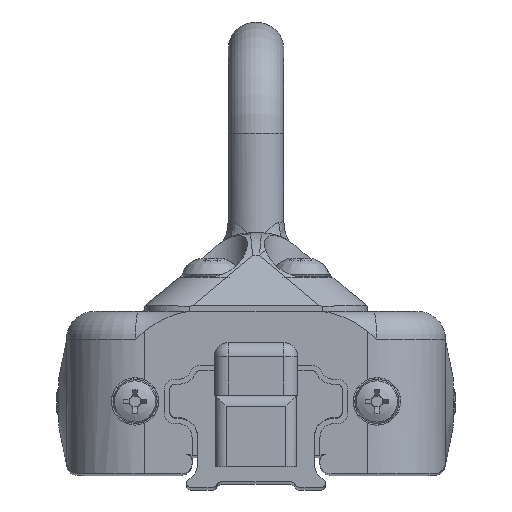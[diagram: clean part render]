
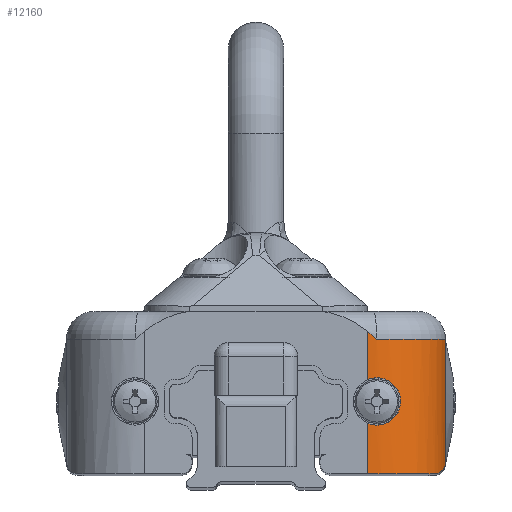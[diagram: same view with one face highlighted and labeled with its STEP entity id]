
A CAD part, top view. The second image highlights one B-rep face of the part: STEP entity #12160.
In plain terms, the highlighted cylindrical face has radius 14 mm (diameter 28 mm), a partial arc.
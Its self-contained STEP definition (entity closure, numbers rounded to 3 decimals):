
#443=CYLINDRICAL_SURFACE('',#13414,14.);
#1486=LINE('',#23136,#2293);
#1487=LINE('',#23146,#2294);
#1488=LINE('',#23147,#2295);
#2293=VECTOR('',#16511,10.);
#2294=VECTOR('',#16514,10.);
#2295=VECTOR('',#16515,10.);
#3056=FACE_OUTER_BOUND('',#3751,.T.);
#3751=EDGE_LOOP('',(#10771,#10772,#10773,#10774,#10775,#10776,#10777,#10778));
#4058=B_SPLINE_CURVE_WITH_KNOTS('',3,(#22677,#22678,#22679,#22680,#22681,
#22682,#22683,#22684,#22685,#22686,#22687,#22688,#22689,#22690,#22691,#22692,
#22693,#22694,#22695,#22696,#22697,#22698,#22699,#22700,#22701,#22702),
 .UNSPECIFIED.,.F.,.F.,(4,2,2,2,2,2,2,2,2,2,2,2,4),(0.479,0.482,
0.642,0.807,0.972,1.133,1.295,
1.456,1.618,1.783,1.948,2.108,
2.111),.UNSPECIFIED.);
#4071=B_SPLINE_CURVE_WITH_KNOTS('',3,(#23129,#23130,#23131,#23132,#23133,
#23134),.UNSPECIFIED.,.F.,.F.,(4,2,4),(1.57,1.946,
2.323),.UNSPECIFIED.);
#4072=B_SPLINE_CURVE_WITH_KNOTS('',3,(#23140,#23141,#23142,#23143,#23144,
#23145),.UNSPECIFIED.,.F.,.F.,(4,2,4),(3.472,3.678,
3.68),.UNSPECIFIED.);
#4657=CIRCLE('',#13415,14.);
#4658=CIRCLE('',#13416,14.);
#5717=VERTEX_POINT('',#22675);
#5718=VERTEX_POINT('',#22676);
#5798=VERTEX_POINT('',#23125);
#5799=VERTEX_POINT('',#23126);
#5800=VERTEX_POINT('',#23128);
#5801=VERTEX_POINT('',#23135);
#5802=VERTEX_POINT('',#23137);
#5803=VERTEX_POINT('',#23139);
#7405=EDGE_CURVE('',#5717,#5718,#4058,.T.);
#7530=EDGE_CURVE('',#5798,#5799,#4657,.T.);
#7531=EDGE_CURVE('',#5799,#5800,#4071,.T.);
#7532=EDGE_CURVE('',#5800,#5801,#1486,.T.);
#7533=EDGE_CURVE('',#5802,#5801,#4658,.T.);
#7534=EDGE_CURVE('',#5803,#5802,#4072,.T.);
#7535=EDGE_CURVE('',#5803,#5717,#1487,.T.);
#7536=EDGE_CURVE('',#5718,#5798,#1488,.T.);
#10771=ORIENTED_EDGE('',*,*,#7530,.T.);
#10772=ORIENTED_EDGE('',*,*,#7531,.T.);
#10773=ORIENTED_EDGE('',*,*,#7532,.T.);
#10774=ORIENTED_EDGE('',*,*,#7533,.F.);
#10775=ORIENTED_EDGE('',*,*,#7534,.F.);
#10776=ORIENTED_EDGE('',*,*,#7535,.T.);
#10777=ORIENTED_EDGE('',*,*,#7405,.T.);
#10778=ORIENTED_EDGE('',*,*,#7536,.T.);
#12160=ADVANCED_FACE('',(#3056),#443,.T.);
#13414=AXIS2_PLACEMENT_3D('',#23124,#16507,#16508);
#13415=AXIS2_PLACEMENT_3D('',#23127,#16509,#16510);
#13416=AXIS2_PLACEMENT_3D('',#23138,#16512,#16513);
#16507=DIRECTION('center_axis',(0.,-1.,0.));
#16508=DIRECTION('ref_axis',(0.707,0.,0.707));
#16509=DIRECTION('center_axis',(0.,1.,0.));
#16510=DIRECTION('ref_axis',(0.707,0.,0.707));
#16511=DIRECTION('',(0.,1.,0.));
#16512=DIRECTION('center_axis',(0.,1.,0.));
#16513=DIRECTION('ref_axis',(0.707,0.,0.707));
#16514=DIRECTION('',(0.,-1.,0.));
#16515=DIRECTION('',(0.,-1.,0.));
#22675=CARTESIAN_POINT('',(20.1,19.417,95.));
#22676=CARTESIAN_POINT('',(20.1,11.583,95.));
#22677=CARTESIAN_POINT('Ctrl Pts',(20.1,19.417,95.));
#22678=CARTESIAN_POINT('Ctrl Pts',(20.11,19.421,95.));
#22679=CARTESIAN_POINT('Ctrl Pts',(20.12,19.425,95.));
#22680=CARTESIAN_POINT('Ctrl Pts',(20.652,19.645,94.999));
#22681=CARTESIAN_POINT('Ctrl Pts',(21.22,19.75,94.965));
#22682=CARTESIAN_POINT('Ctrl Pts',(22.296,19.75,94.838));
#22683=CARTESIAN_POINT('Ctrl Pts',(22.871,19.639,94.734));
#22684=CARTESIAN_POINT('Ctrl Pts',(23.92,19.198,94.479));
#22685=CARTESIAN_POINT('Ctrl Pts',(24.395,18.869,94.331));
#22686=CARTESIAN_POINT('Ctrl Pts',(25.138,18.118,94.068));
#22687=CARTESIAN_POINT('Ctrl Pts',(25.46,17.648,93.935));
#22688=CARTESIAN_POINT('Ctrl Pts',(25.891,16.608,93.748));
#22689=CARTESIAN_POINT('Ctrl Pts',(26.,16.039,93.696));
#22690=CARTESIAN_POINT('Ctrl Pts',(26.,14.961,93.696));
#22691=CARTESIAN_POINT('Ctrl Pts',(25.891,14.392,93.748));
#22692=CARTESIAN_POINT('Ctrl Pts',(25.46,13.352,93.935));
#22693=CARTESIAN_POINT('Ctrl Pts',(25.138,12.882,94.068));
#22694=CARTESIAN_POINT('Ctrl Pts',(24.395,12.131,94.331));
#22695=CARTESIAN_POINT('Ctrl Pts',(23.92,11.802,94.479));
#22696=CARTESIAN_POINT('Ctrl Pts',(22.871,11.361,94.734));
#22697=CARTESIAN_POINT('Ctrl Pts',(22.296,11.25,94.838));
#22698=CARTESIAN_POINT('Ctrl Pts',(21.22,11.25,94.965));
#22699=CARTESIAN_POINT('Ctrl Pts',(20.652,11.355,94.999));
#22700=CARTESIAN_POINT('Ctrl Pts',(20.12,11.575,95.));
#22701=CARTESIAN_POINT('Ctrl Pts',(20.11,11.579,95.));
#22702=CARTESIAN_POINT('Ctrl Pts',(20.1,11.583,95.));
#23124=CARTESIAN_POINT('Origin',(20.1,21.619,81.));
#23125=CARTESIAN_POINT('',(20.1,2.5,95.));
#23126=CARTESIAN_POINT('',(32.1,2.5,88.211));
#23127=CARTESIAN_POINT('Origin',(20.1,2.5,81.));
#23128=CARTESIAN_POINT('',(34.1,4.5,81.));
#23129=CARTESIAN_POINT('Ctrl Pts',(32.1,2.5,88.211));
#23130=CARTESIAN_POINT('Ctrl Pts',(32.747,2.5,87.135));
#23131=CARTESIAN_POINT('Ctrl Pts',(33.266,2.796,85.93));
#23132=CARTESIAN_POINT('Ctrl Pts',(33.944,3.57,83.449));
#23133=CARTESIAN_POINT('Ctrl Pts',(34.1,4.056,82.174));
#23134=CARTESIAN_POINT('Ctrl Pts',(34.1,4.5,81.));
#23135=CARTESIAN_POINT('',(34.1,26.7,81.));
#23136=CARTESIAN_POINT('',(34.1,11.881,81.));
#23137=CARTESIAN_POINT('',(21.686,26.7,94.91));
#23138=CARTESIAN_POINT('Origin',(20.1,26.7,81.));
#23139=CARTESIAN_POINT('',(20.1,28.094,95.));
#23140=CARTESIAN_POINT('Ctrl Pts',(20.1,28.094,95.));
#23141=CARTESIAN_POINT('Ctrl Pts',(20.64,27.635,95.));
#23142=CARTESIAN_POINT('Ctrl Pts',(21.166,27.166,94.969));
#23143=CARTESIAN_POINT('Ctrl Pts',(21.68,26.706,94.911));
#23144=CARTESIAN_POINT('Ctrl Pts',(21.683,26.703,94.91));
#23145=CARTESIAN_POINT('Ctrl Pts',(21.686,26.7,94.91));
#23146=CARTESIAN_POINT('',(20.1,21.619,95.));
#23147=CARTESIAN_POINT('',(20.1,11.881,95.));
